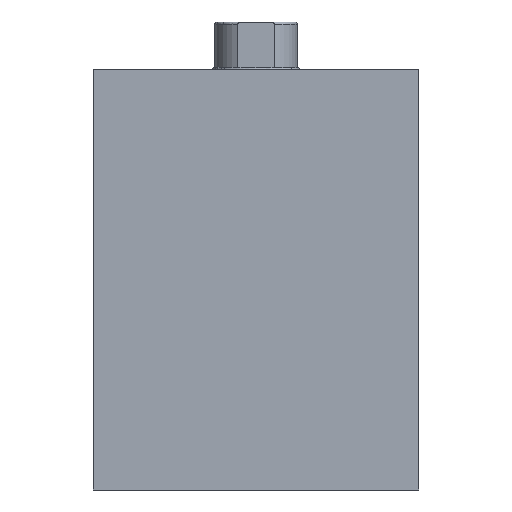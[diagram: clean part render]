
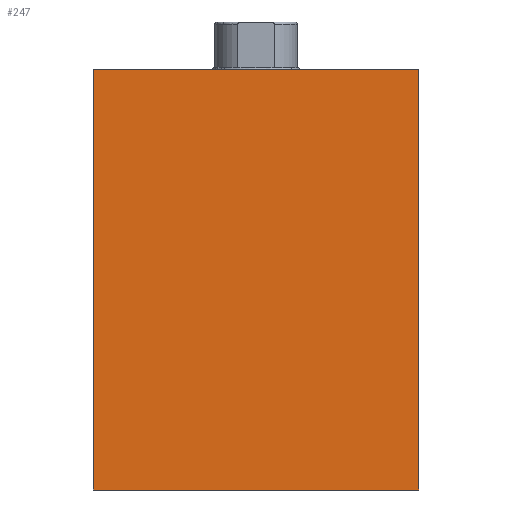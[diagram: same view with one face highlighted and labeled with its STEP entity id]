
A CAD part, left-side view. The second image highlights one B-rep face of the part: STEP entity #247.
In plain terms, the highlighted planar face has unit normal (-1, 0, 0) as drawn and (0, 0, -1) by its records, which use the part's own axes.
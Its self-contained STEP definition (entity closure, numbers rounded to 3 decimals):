
#247 = ADVANCED_FACE( '', ( #328 ), #329, .F. );
#328 = FACE_OUTER_BOUND( '', #524, .T. );
#329 = PLANE( '', #525 );
#524 = EDGE_LOOP( '', ( #739, #740, #741, #742 ) );
#525 = AXIS2_PLACEMENT_3D( '', #743, #744, #745 );
#739 = ORIENTED_EDGE( '', *, *, #1081, .T. );
#740 = ORIENTED_EDGE( '', *, *, #1097, .F. );
#741 = ORIENTED_EDGE( '', *, *, #1092, .F. );
#742 = ORIENTED_EDGE( '', *, *, #1096, .T. );
#743 = CARTESIAN_POINT( '', ( 97., -37.5, -27.5 ) );
#744 = DIRECTION( '', ( 0., 0., 1. ) );
#745 = DIRECTION( '', ( 1., 0., 0. ) );
#1081 = EDGE_CURVE( '', #1175, #1173, #1176, .T. );
#1092 = EDGE_CURVE( '', #1193, #1195, #1196, .T. );
#1096 = EDGE_CURVE( '', #1193, #1175, #1202, .T. );
#1097 = EDGE_CURVE( '', #1195, #1173, #1203, .T. );
#1173 = VERTEX_POINT( '', #1406 );
#1175 = VERTEX_POINT( '', #1409 );
#1176 = LINE( '', #1410, #1411 );
#1193 = VERTEX_POINT( '', #1600 );
#1195 = VERTEX_POINT( '', #1603 );
#1196 = LINE( '', #1604, #1605 );
#1202 = B_SPLINE_CURVE_WITH_KNOTS( '', 1, ( #1678, #1679 ), .UNSPECIFIED., .F., .F., ( 2, 2 ), ( 0., 1. ), .UNSPECIFIED. );
#1203 = B_SPLINE_CURVE_WITH_KNOTS( '', 1, ( #1680, #1681 ), .UNSPECIFIED., .F., .F., ( 2, 2 ), ( 0., 1. ), .UNSPECIFIED. );
#1406 = CARTESIAN_POINT( '', ( 0., 37.5, -27.5 ) );
#1409 = CARTESIAN_POINT( '', ( 0., -37.5, -27.5 ) );
#1410 = CARTESIAN_POINT( '', ( 0., -37.5, -27.5 ) );
#1411 = VECTOR( '', #3645, 1000. );
#1600 = CARTESIAN_POINT( '', ( 97., -37.5, -27.5 ) );
#1603 = CARTESIAN_POINT( '', ( 97., 37.5, -27.5 ) );
#1604 = CARTESIAN_POINT( '', ( 97., -37.5, -27.5 ) );
#1605 = VECTOR( '', #3649, 1000. );
#1678 = CARTESIAN_POINT( '', ( 97., -37.5, -27.5 ) );
#1679 = CARTESIAN_POINT( '', ( 0., -37.5, -27.5 ) );
#1680 = CARTESIAN_POINT( '', ( 97., 37.5, -27.5 ) );
#1681 = CARTESIAN_POINT( '', ( 0., 37.5, -27.5 ) );
#3645 = DIRECTION( '', ( 0., 1., 0. ) );
#3649 = DIRECTION( '', ( 0., 1., 0. ) );
